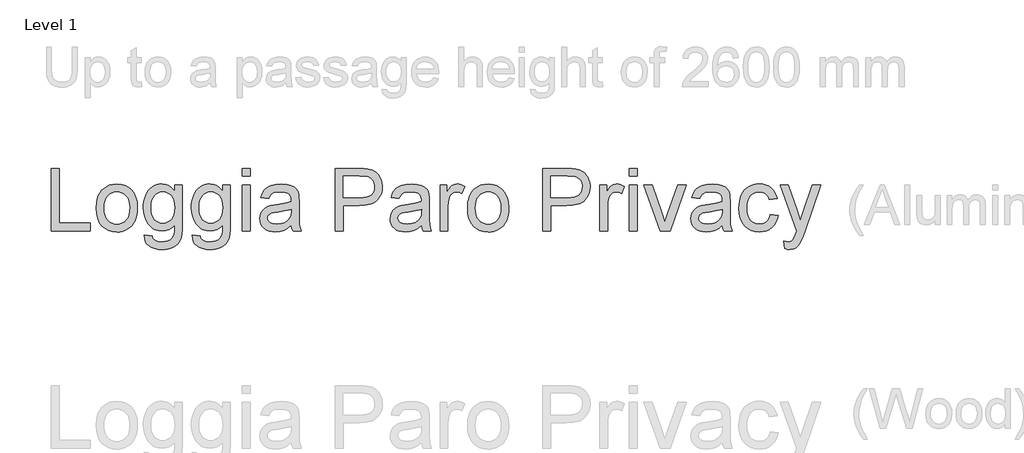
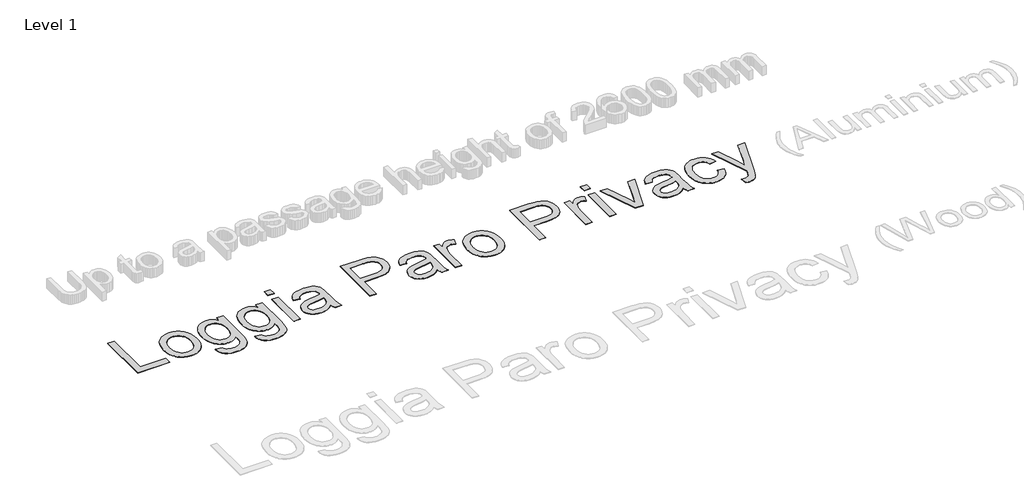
# One storey, part 11 of 47: 1 proxy.
"""IFC4 building model written with IfcOpenShell, lengths in millimetres."""

import ifcopenshell
import ifcopenshell.guid

model = None  # the IFC model being written
_history = None  # IfcOwnerHistory: only IFC2X3 demands one
_inside = {}  # id of a spatial element -> (the spatial element, [elements in it])
_under = {}  # id of a project, library or spatial element -> (it, [spatial elements below it])
_declared = {}  # id of a project -> (the project, [libraries it declares])
_typed = {}  # id of a type object -> (the type object, [elements of that type])
_made_of = {}  # id of a material, layer set ... -> (it, [elements and type objects made of it])


def new_model(schema):
    """Start an empty IFC model of exactly this schema.

    Asked for "IFC4X3", IfcOpenShell would pick the latest addendum, in which some entities
    have other attributes; the version numbers below select the first issue.
    IFC2X3 requires an IfcOwnerHistory on every rooted entity: one is made here for all.
    """
    global model, _history
    if schema == "IFC4X3":
        model = ifcopenshell.file(schema_version=(4, 3, 0, 0))
    else:
        model = ifcopenshell.file(schema=schema)
    _inside.clear()
    _under.clear()
    _declared.clear()
    _typed.clear()
    _made_of.clear()
    _history = None
    if model.schema == "IFC2X3":
        org = make("IfcOrganization", Name="unknown")
        user = make(
            "IfcPersonAndOrganization",
            ThePerson=make("IfcPerson", FamilyName="unknown"),
            TheOrganization=org,
        )
        app = make(
            "IfcApplication",
            ApplicationDeveloper=org,
            Version="unknown",
            ApplicationFullName="unknown",
            ApplicationIdentifier="unknown",
        )
        _history = make(
            "IfcOwnerHistory",
            OwningUser=user,
            OwningApplication=app,
            ChangeAction="ADDED",
            CreationDate=0,
        )
    return model


def make(cls, **values):
    """One entity of the class cls with the attributes given. An attribute that is None is left unset."""
    return model.create_entity(
        cls, **{name: value for name, value in values.items() if value is not None}
    )


def rooted(cls, **values):
    """An entity with a GlobalId (a new one), such as an element, a storey or a relation."""
    return make(cls, GlobalId=ifcopenshell.guid.new(), OwnerHistory=_history, **values)


def si_unit(unit_type, name, prefix=None):
    """IfcSIUnit, for example si_unit("LENGTHUNIT", "METRE", prefix="MILLI")."""
    return make("IfcSIUnit", UnitType=unit_type, Prefix=prefix, Name=name)


def assignment(units):
    """IfcUnitAssignment: the units of a project."""
    return None if units is None else make("IfcUnitAssignment", Units=units)


def point(xyz):
    """IfcCartesianPoint."""
    return None if xyz is None else make("IfcCartesianPoint", Coordinates=xyz)


def direction(xyz):
    """IfcDirection."""
    return None if xyz is None else make("IfcDirection", DirectionRatios=xyz)


def frame(location, z_axis=None, x_axis=None):
    """IfcAxis2Placement3D, a coordinate frame: its origin and axes. An axis left out is left unset."""
    return make(
        "IfcAxis2Placement3D",
        Location=point(location),
        Axis=direction(z_axis),
        RefDirection=direction(x_axis),
    )


def origin():
    """The frame at (0, 0, 0) with its axes left unset."""
    return frame((0.0, 0.0, 0.0))


def origin_with_axes():
    """The frame at (0, 0, 0) with the z axis (0, 0, 1) and the x axis (1, 0, 0) written out."""
    return frame((0.0, 0.0, 0.0), z_axis=(0.0, 0.0, 1.0), x_axis=(1.0, 0.0, 0.0))


def place(relative_to, where):
    """IfcLocalPlacement: puts the frame where relative to a parent placement (None: the world)."""
    return make(
        "IfcLocalPlacement", PlacementRelTo=relative_to, RelativePlacement=where
    )


def context(
    kind, dimensions, precision=None, world=None, true_north=None, identifier=None
):
    """IfcGeometricRepresentationContext, for example the 3D "Model" context."""
    return make(
        "IfcGeometricRepresentationContext",
        ContextIdentifier=identifier,
        ContextType=kind,
        CoordinateSpaceDimension=dimensions,
        Precision=precision,
        WorldCoordinateSystem=world,
        TrueNorth=true_north,
    )


def project(units=None, contexts=None):
    """IfcProject with its units and contexts."""
    return rooted(
        "IfcProject",
        Name="project",
        RepresentationContexts=contexts,
        UnitsInContext=assignment(units),
    )


def spatial(cls, under=None, at=None, **own):
    """A site, building, storey or space (cls), placed at a placement, below another one or the project."""
    s = rooted(cls, ObjectPlacement=at, **own)
    if under is not None:
        _under.setdefault(under.id(), (under, []))[1].append(s)
    return s


def polyline(points):
    """IfcPolyline through the points."""
    return make("IfcPolyline", Points=[point(p) for p in points])


def outline(outer, holes=None, kind="AREA"):
    """IfcArbitraryClosedProfileDef: a profile drawn as a closed curve; with holes, ...WithVoids."""
    if holes is None:
        return make("IfcArbitraryClosedProfileDef", ProfileType=kind, OuterCurve=outer)
    return make(
        "IfcArbitraryProfileDefWithVoids",
        ProfileType=kind,
        OuterCurve=outer,
        InnerCurves=holes,
    )


def extrude(swept, where, along, depth):
    """IfcExtrudedAreaSolid: the profile swept, set in the frame where, extruded along a direction by depth."""
    return make(
        "IfcExtrudedAreaSolid",
        SweptArea=swept,
        Position=where,
        ExtrudedDirection=direction(along),
        Depth=depth,
    )


def shape(context_of_items, identifier, shape_type, items):
    """IfcShapeRepresentation: the items that make up one representation, for example the "Body"."""
    return make(
        "IfcShapeRepresentation",
        ContextOfItems=context_of_items,
        RepresentationIdentifier=identifier,
        RepresentationType=shape_type,
        Items=items,
    )


def made_of(thing, what):
    """Note that an element or type object is made of a material, layer set ...; save() writes the relation."""
    if what is not None:
        _made_of.setdefault(what.id(), (what, []))[1].append(thing)
    return thing


def element(
    cls,
    number,
    at=None,
    inside=None,
    cuts=None,
    type_object=None,
    material=None,
    context=None,
    identifier="Body",
    shape_type=None,
    held_by="IfcProductDefinitionShape",
    body=None,
    shapes=None,
    **own,
):
    """One element of the class cls, such as IfcWall. Its Tag is "e" and its number.

    at: its placement. inside: the storey or other place that contains it. cuts: it is an
    opening in that element (IfcRelVoidsElement). A single representation is given by context,
    identifier, shape_type and body (its items); several are given by shapes. held_by: the class
    of the entity that holds the representations. save() writes the other relations.
    """
    e = rooted(cls, Tag="e%d" % number, ObjectPlacement=at, **own)
    if body is not None:
        shapes = [shape(context, identifier, shape_type, body)]
    if shapes is not None:
        e.Representation = make(held_by, Representations=shapes)
    if inside is not None:
        _inside.setdefault(inside.id(), (inside, []))[1].append(e)
    if cuts is not None:
        rooted(
            "IfcRelVoidsElement", RelatingBuildingElement=cuts, RelatedOpeningElement=e
        )
    if type_object is not None:
        _typed.setdefault(type_object.id(), (type_object, []))[1].append(e)
    return made_of(e, material)


def aggregate(whole, parts):
    """IfcRelAggregates: a whole, such as a stair, and the parts it consists of."""
    return rooted("IfcRelAggregates", RelatingObject=whole, RelatedObjects=parts)


def save(model, path):
    """Write the relations noted so far, then the file.

    IfcRelAggregates (storeys below a building ...), IfcRelContainedInSpatialStructure (elements
    in a storey), IfcRelDefinesByType, IfcRelAssociatesMaterial and IfcRelDeclares: one each for
    every whole, place, type object, material and project.
    """
    for whole, parts in _under.values():
        aggregate(whole, parts)
    for where, things in _inside.values():
        rooted(
            "IfcRelContainedInSpatialStructure",
            RelatedElements=things,
            RelatingStructure=where,
        )
    for kind, things in _typed.values():
        rooted("IfcRelDefinesByType", RelatedObjects=things, RelatingType=kind)
    for what, things in _made_of.values():
        rooted("IfcRelAssociatesMaterial", RelatedObjects=things, RelatingMaterial=what)
    for by, libraries in _declared.values():
        rooted("IfcRelDeclares", RelatingContext=by, RelatedDefinitions=libraries)
    model.write(path)


model = new_model("IFC4")

# Units and contexts
model_context = context("Model", 3, world=origin())
ifc_project = project(units=[si_unit("LENGTHUNIT", "METRE", prefix="MILLI")], contexts=[model_context])

# Site, building, storey
site = spatial("IfcSite", under=ifc_project)
building = spatial("IfcBuilding", under=site)
storey = spatial("IfcBuildingStorey", under=building, Name="Level 1", Elevation=0.0)

# Proxy
placement = place(None, origin())
element("IfcBuildingElementProxy", 1, Name="800mm Arial", ObjectType="800mm Arial", at=placement, inside=storey, context=model_context, shape_type="SweptSolid", body=[
    extrude(outline(polyline([(172933.6081343, -29903.3203083), (172933.6081343, -29103.93161), (173033.5317216, -29103.93161), (173033.5317216, -29803.3967211), (173433.2260708, -29803.3967211), (173433.2260708, -29903.3203083), (172933.6081343, -29903.3203083)])), origin_with_axes(), (0.0, 0.0, 1.0), 5.0),
    extrude(outline(polyline([(173508.1687612, -29609.7947707), (173513.5723439, -29533.7664846), (173520.3268222, -29499.6952492), (173529.7830919, -29468.2526189), (173541.9411529, -29439.4385938), (173556.8010052, -29413.2531737), (173574.3626488, -29389.6963588), (173594.6260838, -29368.768149), (173632.7073142, -29340.3353021), (173674.7406006, -29320.0261257), (173720.7259429, -29307.8406199), (173770.6633411, -29303.7787846), (173825.7908622, -29308.7249534), (173875.6367777, -29323.5634597), (173920.2010875, -29348.2943036), (173959.4837917, -29382.9174851), (173991.5454554, -29426.2620246), (174014.4466438, -29477.1569425), (174028.1873568, -29535.602239), (174032.7675945, -29601.5979139), (174030.7427757, -29655.0848439), (174024.6683194, -29702.5461083), (174014.5442254, -29743.9817072), (174000.3704939, -29779.3916405), (173982.3239916, -29809.9773821), (173960.581585, -29836.9404058), (173935.1432743, -29860.2807115), (173906.0090595, -29879.9982992), (173874.3133268, -29895.6662494), (173841.1904629, -29906.8576424), (173806.6404677, -29913.5724782), (173770.6633411, -29915.8107568), (173714.7307716, -29910.8828845), (173664.4213434, -29896.0992679), (173619.7350565, -29871.4599067), (173580.671911, -29836.9648012), (173548.951783, -29793.1994409), (173526.2945487, -29740.7493157), (173512.7002081, -29679.6144257), (173508.1687612, -29609.7947707)]), holes=[polyline([(173608.0923485, -29609.5996074), (173610.9832043, -29658.0671824), (173619.6557715, -29700.0333814), (173634.1100501, -29735.4982044), (173654.3460403, -29764.4616514), (173678.961006, -29786.9603155), (173706.5522114, -29803.0307899), (173737.1196564, -29812.6730746), (173770.6633411, -29815.8871695), (173804.036258, -29812.654778), (173834.481726, -29802.9576037), (173861.9997451, -29786.7956466), (173886.5903154, -29764.1689065), (173906.8263056, -29734.9188135), (173921.2805843, -29698.8867972), (173929.9531515, -29656.0728579), (173932.8440072, -29606.4769953), (173929.9348549, -29559.546331), (173921.2073981, -29518.6779253), (173906.6616366, -29483.8717783), (173886.2975706, -29455.12789), (173861.6155175, -29432.6292258), (173834.1157949, -29416.5587514), (173803.7984028, -29406.9164668), (173770.6633411, -29403.7023719), (173737.1196564, -29406.9042691), (173706.5522114, -29416.5099606), (173678.961006, -29432.5194465), (173654.3460403, -29454.9327267), (173634.1100501, -29483.8107898), (173619.6557715, -29519.2146243), (173610.9832043, -29561.1442302), (173608.0923485, -29609.5996074)])]), origin_with_axes(), (0.0, 0.0, 1.0), 5.0),
    extrude(outline(polyline([(174120.2007334, -29953.282102), (174220.1243207, -29965.7725504), (174224.3447261, -29982.6053813), (174231.1510447, -29996.9986714), (174240.5432764, -30008.9524209), (174252.5214213, -30018.4666296), (174271.9035722, -30028.2003971), (174294.5303122, -30035.1530881), (174349.5175597, -30040.7152409), (174380.7192853, -30039.1417371), (174408.1641183, -30034.4212259), (174431.8520585, -30026.5537071), (174451.7831061, -30015.5391808), (174468.3719829, -30001.6825896), (174482.0334108, -29985.288876), (174492.7673899, -29966.3580402), (174500.5739202, -29944.890082), (174505.9897005, -29901.9053747), (174507.4046342, -29828.3776179), (174474.1536943, -29861.165045), (174437.0482802, -29884.5846357), (174396.0883918, -29898.6363902), (174351.274029, -29903.3203083), (174296.4880436, -29897.8679349), (174248.252225, -29881.5108144), (174226.5906283, -29869.2429741), (174206.5665732, -29854.2489471), (174171.4310882, -29816.0823327), (174143.5532368, -29770.2921537), (174123.6404858, -29720.1595922), (174111.6928352, -29665.6846482), (174107.710285, -29606.8673218), (174109.4972486, -29565.718369), (174114.8581393, -29526.1917107), (174123.7929571, -29488.287347), (174136.3017021, -29452.0052778), (174152.1953097, -29418.5530759), (174171.2847158, -29389.1383139), (174193.5699201, -29363.7609917), (174219.0509228, -29342.4211094), (174247.3191007, -29325.5150923), (174277.9658308, -29313.4393658), (174310.9911131, -29306.1939299), (174346.3949476, -29303.7787846), (174393.1243498, -29309.2433558), (174435.535765, -29325.6370693), (174473.6291931, -29352.9599252), (174507.4046342, -29391.2119235), (174507.4046342, -29316.269233), (174607.3282214, -29316.269233), (174607.3282214, -29823.10821), (174605.620543, -29886.6155534), (174600.4975075, -29940.1329776), (174591.959115, -29983.6604826), (174580.0053655, -30017.1980685), (174564.3496131, -30044.246476), (174544.7052115, -30068.3064463), (174521.072161, -30089.3779791), (174493.4504613, -30107.4610746), (174462.1206598, -30121.9763418), (174427.3633036, -30132.3443898), (174389.1783927, -30138.5652186), (174347.5659271, -30140.6388282), (174298.610444, -30137.7174782), (174254.5950309, -30128.9534282), (174215.5196876, -30114.3466782), (174181.3844143, -30093.8972282), (174153.8115055, -30067.5806829), (174134.4232557, -30035.3726467), (174123.219665, -29997.2731198), (174120.2007334, -29953.282102)]), holes=[polyline([(174207.6338723, -29600.0366079), (174210.2990705, -29649.443406), (174218.2946652, -29691.6901522), (174231.6206563, -29726.7768463), (174250.2770438, -29754.7034886), (174272.9586735, -29776.0067778), (174298.3603911, -29791.2234129), (174326.4821966, -29800.353394), (174357.32409, -29803.3967211), (174387.8610407, -29800.3716906), (174415.8486715, -29791.2965992), (174441.2869822, -29776.1714468), (174464.1759729, -29754.9962335), (174483.0885122, -29727.3440396), (174496.5974688, -29692.7879455), (174504.7028428, -29651.3279512), (174507.4046342, -29602.9640567), (174504.6235578, -29556.6188821), (174496.2803285, -29516.3359662), (174482.3749465, -29482.115309), (174462.9074117, -29453.9569104), (174439.524414, -29431.9705498), (174413.8726435, -29416.2660065), (174385.9521001, -29406.8432805), (174355.7627839, -29403.7023719), (174326.0796724, -29406.7944897), (174298.7019268, -29416.0708433), (174273.6295472, -29431.5314325), (174250.8625336, -29453.1762574), (174231.9499943, -29480.9077364), (174218.4410376, -29514.6282878), (174210.3356636, -29554.3379116), (174207.6338723, -29600.0366079)])]), origin_with_axes(), (0.0, 0.0, 1.0), 5.0),
    extrude(outline(polyline([(174732.2327056, -29953.282102), (174832.1562929, -29965.7725504), (174836.3766983, -29982.6053813), (174843.1830168, -29996.9986714), (174852.5752486, -30008.9524209), (174864.5533934, -30018.4666296), (174883.9355443, -30028.2003971), (174906.5622844, -30035.1530881), (174961.5495319, -30040.7152409), (174992.7512575, -30039.1417371), (175020.1960904, -30034.4212259), (175043.8840307, -30026.5537071), (175063.8150782, -30015.5391808), (175080.403955, -30001.6825896), (175094.065383, -29985.288876), (175104.7993621, -29966.3580402), (175112.6058923, -29944.890082), (175118.0216727, -29901.9053747), (175119.4366063, -29828.3776179), (175086.1856665, -29861.165045), (175049.0802524, -29884.5846357), (175008.1203639, -29898.6363902), (174963.3060012, -29903.3203083), (174908.5200158, -29897.8679349), (174860.2841972, -29881.5108144), (174838.6226004, -29869.2429741), (174818.5985454, -29854.2489471), (174783.4630604, -29816.0823327), (174755.585209, -29770.2921537), (174735.672458, -29720.1595922), (174723.7248074, -29665.6846482), (174719.7422572, -29606.8673218), (174721.5292207, -29565.718369), (174726.8901114, -29526.1917107), (174735.8249293, -29488.287347), (174748.3336742, -29452.0052778), (174764.2272819, -29418.5530759), (174783.3166879, -29389.1383139), (174805.6018923, -29363.7609917), (174831.0828949, -29342.4211094), (174859.3510729, -29325.5150923), (174889.997803, -29313.4393658), (174923.0230853, -29306.1939299), (174958.4269198, -29303.7787846), (175005.156322, -29309.2433558), (175047.5677371, -29325.6370693), (175085.6611653, -29352.9599252), (175119.4366063, -29391.2119235), (175119.4366063, -29316.269233), (175219.3601936, -29316.269233), (175219.3601936, -29823.10821), (175217.6525151, -29886.6155534), (175212.5294796, -29940.1329776), (175203.9910872, -29983.6604826), (175192.0373377, -30017.1980685), (175176.3815852, -30044.246476), (175156.7371837, -30068.3064463), (175133.1041331, -30089.3779791), (175105.4824335, -30107.4610746), (175074.152632, -30121.9763418), (175039.3952758, -30132.3443898), (175001.2103649, -30138.5652186), (174959.5978993, -30140.6388282), (174910.6424162, -30137.7174782), (174866.627003, -30128.9534282), (174827.5516598, -30114.3466782), (174793.4163865, -30093.8972282), (174765.8434776, -30067.5806829), (174746.4552279, -30035.3726467), (174735.2516372, -29997.2731198), (174732.2327056, -29953.282102)]), holes=[polyline([(174819.6658444, -29600.0366079), (174822.3310427, -29649.443406), (174830.3266373, -29691.6901522), (174843.6526284, -29726.7768463), (174862.309016, -29754.7034886), (174884.9906457, -29776.0067778), (174910.3923633, -29791.2234129), (174938.5141688, -29800.353394), (174969.3560621, -29803.3967211), (174999.8930129, -29800.3716906), (175027.8806437, -29791.2965992), (175053.3189544, -29776.1714468), (175076.207945, -29754.9962335), (175095.1204843, -29727.3440396), (175108.629441, -29692.7879455), (175116.734815, -29651.3279512), (175119.4366063, -29602.9640567), (175116.6555299, -29556.6188821), (175108.3123007, -29516.3359662), (175094.4069187, -29482.115309), (175074.9393839, -29453.9569104), (175051.5563862, -29431.9705498), (175025.9046157, -29416.2660065), (174997.9840723, -29406.8432805), (174967.7947561, -29403.7023719), (174938.1116445, -29406.7944897), (174910.733899, -29416.0708433), (174885.6615194, -29431.5314325), (174862.8945057, -29453.1762574), (174843.9819664, -29480.9077364), (174830.4730098, -29514.6282878), (174822.3676358, -29554.3379116), (174819.6658444, -29600.0366079)])]), origin_with_axes(), (0.0, 0.0, 1.0), 5.0),
    extrude(outline(polyline([(175369.2455746, -29903.3203083), (175369.2455746, -29316.269233), (175469.1691618, -29316.269233), (175469.1691618, -29903.3203083), (175369.2455746, -29903.3203083)])), origin_with_axes(), (0.0, 0.0, 1.0), 5.0),
    extrude(outline(polyline([(175369.2455746, -29203.8551973), (175369.2455746, -29103.93161), (175469.1691618, -29103.93161), (175469.1691618, -29203.8551973), (175369.2455746, -29203.8551973)])), origin_with_axes(), (0.0, 0.0, 1.0), 5.0),
    extrude(outline(polyline([(175993.7679951, -29828.3776179), (175946.0261835, -29869.3131109), (175921.6246776, -29884.4748564), (175896.8694383, -29896.0992679), (175845.1755708, -29910.8828845), (175789.8223922, -29915.8107568), (175745.3312686, -29912.8467148), (175706.3169138, -29903.9545889), (175672.779328, -29889.1343791), (175644.718511, -29868.3860854), (175622.5613826, -29843.0270598), (175606.7348622, -29814.3746542), (175597.23895, -29782.4288687), (175594.073646, -29747.1897032), (175598.8551457, -29705.766302), (175613.1996451, -29668.1485843), (175635.3262793, -29635.946647), (175663.4541836, -29610.770587), (175696.5099602, -29591.7421695), (175733.4202111, -29577.9831599), (175819.8775337, -29562.9555891), (175922.0454984, -29547.1473654), (175993.1825054, -29528.606856), (175993.7679951, -29506.3582448), (175992.0481189, -29482.1336056), (175986.8884903, -29461.7634407), (175978.2891094, -29445.2477501), (175966.249976, -29432.5865338), (175945.4406938, -29419.949713), (175920.0938658, -29410.9234124), (175890.2094922, -29405.507632), (175855.7875728, -29403.7023719), (175796.2627796, -29408.5082671), (175773.2335154, -29414.5156361), (175754.693006, -29422.9259526), (175739.4580743, -29434.3978928), (175726.345543, -29449.5901325), (175715.3554121, -29468.5026719), (175706.4876817, -29491.1355108), (175606.5640944, -29478.6450624), (175623.9092288, -29423.9993505), (175635.7836932, -29401.0676679), (175649.7927557, -29381.0634341), (175666.5402026, -29363.584125), (175686.6298203, -29348.2272162), (175710.0616088, -29334.9927079), (175736.835568, -29323.8806), (175798.2388076, -29308.8042384), (175868.6683478, -29303.7787846), (175936.2192299, -29308.2187487), (175989.7671484, -29321.5386409), (176030.1415471, -29341.5672701), (176058.1718698, -29366.133445), (176076.7611699, -29396.5057268), (176088.812501, -29433.9526766), (176092.4718121, -29468.496573), (176093.6915824, -29521.3858155), (176093.6915824, -29645.7048099), (176094.9601436, -29753.9960218), (176098.7658271, -29819.3025265), (176106.2796125, -29862.2140475), (176118.6724793, -29903.3203083), (176018.748892, -29903.3203083), (176002.7455049, -29868.5812487), (175993.7679951, -29828.3776179)]), holes=[polyline([(175993.7679951, -29628.5304433), (175926.6318349, -29645.1681109), (175832.5631453, -29659.1710745), (175780.7229053, -29666.8312324), (175746.5937309, -29675.3696248), (175724.2231426, -29686.4451396), (175707.6586612, -29701.7166645), (175697.4125902, -29720.0132197), (175693.9972333, -29740.163826), (175695.857383, -29755.6915026), (175701.4378324, -29769.8774318), (175710.7385813, -29782.7216136), (175723.7596299, -29794.224048), (175740.3790009, -29803.7016636), (175760.4747175, -29810.4713891), (175811.0951871, -29815.8871695), (175864.7650826, -29809.9102947), (175889.2580713, -29802.4392013), (175912.1897539, -29791.9796706), (175950.6369155, -29765.5594447), (175977.3742816, -29734.113765), (175989.2304494, -29701.7166645), (175993.1825054, -29656.8291155), (175993.7679951, -29628.5304433)])]), origin_with_axes(), (0.0, 0.0, 1.0), 5.0),
    extrude(outline(polyline([(176555.8381737, -29903.3203083), (176555.8381737, -29103.93161), (176852.0959969, -29103.93161), (176921.0862081, -29105.8344518), (176971.5359099, -29111.542977), (177024.7910835, -29125.7654993), (177068.6296299, -29148.9167406), (177087.2372267, -29164.1028815), (177103.9297839, -29182.0457034), (177131.5697801, -29226.2013902), (177141.9866189, -29251.6397009), (177149.4272181, -29278.2855842), (177155.3796974, -29335.2000689), (177151.3605541, -29384.2714302), (177139.3031242, -29429.4151309), (177119.2074076, -29470.6311711), (177091.0734044, -29507.9195508), (177073.3791107, -29524.4779334), (177052.4493762, -29538.8285316), (177028.2842008, -29550.9713454), (177000.8835845, -29560.9063749), (176936.3760294, -29574.153081), (176858.9267109, -29578.5686496), (176655.761761, -29578.5686496), (176655.761761, -29903.3203083), (176555.8381737, -29903.3203083)]), holes=[polyline([(176655.761761, -29478.6450624), (176864.7816086, -29478.6450624), (176912.8405605, -29476.3518941), (176953.385727, -29469.4723893), (176986.4171082, -29458.006548), (177011.9347039, -29441.9543701), (177030.9753191, -29421.7427754), (177044.5757586, -29397.7986834), (177052.7360222, -29370.1220941), (177055.4561101, -29338.7130075), (177053.8521121, -29315.3909983), (177049.0401181, -29293.8254585), (177041.020128, -29274.016388), (177029.7921419, -29255.9637868), (177015.9538473, -29240.2531446), (177000.1029315, -29227.4699513), (176982.2393947, -29217.6142069), (176962.3632368, -29210.6859113), (176923.8184937, -29205.5628758), (176862.4396495, -29203.8551973), (176655.761761, -29203.8551973), (176655.761761, -29478.6450624)])]), origin_with_axes(), (0.0, 0.0, 1.0), 5.0),
    extrude(outline(polyline([(177654.9976339, -29828.3776179), (177607.2558223, -29869.3131109), (177582.8543164, -29884.4748564), (177558.0990771, -29896.0992679), (177506.4052095, -29910.8828845), (177451.0520309, -29915.8107568), (177406.5609073, -29912.8467148), (177367.5465526, -29903.9545889), (177334.0089667, -29889.1343791), (177305.9481498, -29868.3860854), (177283.7910213, -29843.0270598), (177267.964501, -29814.3746542), (177258.4685888, -29782.4288687), (177255.3032847, -29747.1897032), (177260.0847845, -29705.766302), (177274.4292838, -29668.1485843), (177296.555918, -29635.946647), (177324.6838224, -29610.770587), (177357.7395989, -29591.7421695), (177394.6498498, -29577.9831599), (177481.1071724, -29562.9555891), (177583.2751371, -29547.1473654), (177654.4121441, -29528.606856), (177654.9976339, -29506.3582448), (177653.2777577, -29482.1336056), (177648.1181291, -29461.7634407), (177639.5187481, -29445.2477501), (177627.4796147, -29432.5865338), (177606.6703325, -29419.949713), (177581.3235046, -29410.9234124), (177551.4391309, -29405.507632), (177517.0172116, -29403.7023719), (177457.4924184, -29408.5082671), (177434.4631541, -29414.5156361), (177415.9226448, -29422.9259526), (177400.687713, -29434.3978928), (177387.5751818, -29449.5901325), (177376.5850509, -29468.5026719), (177367.7173204, -29491.1355108), (177267.7937331, -29478.6450624), (177285.1388675, -29423.9993505), (177297.0133319, -29401.0676679), (177311.0223944, -29381.0634341), (177327.7698414, -29363.584125), (177347.8594591, -29348.2272162), (177371.2912475, -29334.9927079), (177398.0652068, -29323.8806), (177459.4684463, -29308.8042384), (177529.8979865, -29303.7787846), (177597.4488686, -29308.2187487), (177650.9967871, -29321.5386409), (177691.3711858, -29341.5672701), (177719.4015085, -29366.133445), (177737.9908087, -29396.5057268), (177750.0421398, -29433.9526766), (177753.7014508, -29468.496573), (177754.9212212, -29521.3858155), (177754.9212212, -29645.7048099), (177756.1897823, -29753.9960218), (177759.9954658, -29819.3025265), (177767.5092512, -29862.2140475), (177779.902118, -29903.3203083), (177679.9785307, -29903.3203083), (177663.9751437, -29868.5812487), (177654.9976339, -29828.3776179)]), holes=[polyline([(177654.9976339, -29628.5304433), (177587.8614737, -29645.1681109), (177493.7927841, -29659.1710745), (177441.9525441, -29666.8312324), (177407.8233696, -29675.3696248), (177385.4527813, -29686.4451396), (177368.8883, -29701.7166645), (177358.642229, -29720.0132197), (177355.226872, -29740.163826), (177357.0870218, -29755.6915026), (177362.6674712, -29769.8774318), (177371.9682201, -29782.7216136), (177384.9892686, -29794.224048), (177401.6086397, -29803.7016636), (177421.7043562, -29810.4713891), (177472.3248259, -29815.8871695), (177525.9947214, -29809.9102947), (177550.4877101, -29802.4392013), (177573.4193927, -29791.9796706), (177611.8665542, -29765.5594447), (177638.6039203, -29734.113765), (177650.4600882, -29701.7166645), (177654.4121441, -29656.8291155), (177654.9976339, -29628.5304433)])]), origin_with_axes(), (0.0, 0.0, 1.0), 5.0),
    extrude(outline(polyline([(177892.3161537, -29903.3203083), (177892.3161537, -29316.269233), (177979.7492926, -29316.269233), (177979.7492926, -29403.1168821), (178012.0488115, -29352.764762), (178027.2471501, -29335.3464413), (178041.8112081, -29323.099947), (178071.6711864, -29308.6090752), (178104.2634502, -29303.7787846), (178129.0491837, -29305.7060217), (178154.0300806, -29311.4877332), (178179.2061407, -29321.123919), (178204.577364, -29334.6145791), (178171.2044471, -29424.1945138), (178136.075061, -29408.8254074), (178100.9456748, -29403.7023719), (178071.110092, -29408.6302441), (178044.4459121, -29423.4138608), (178022.9047677, -29446.9310332), (178008.4382913, -29478.0595726), (177996.2893786, -29533.8762639), (177992.239741, -29594.7671999), (177992.239741, -29903.3203083), (177892.3161537, -29903.3203083)])), origin_with_axes(), (0.0, 0.0, 1.0), 5.0),
    extrude(outline(polyline([(178242.0487092, -29609.7947707), (178247.4522919, -29533.7664846), (178254.2067702, -29499.6952492), (178263.6630399, -29468.2526189), (178275.8211009, -29439.4385938), (178290.6809532, -29413.2531737), (178308.2425968, -29389.6963588), (178328.5060318, -29368.768149), (178366.5872622, -29340.3353021), (178408.6205486, -29320.0261257), (178454.6058909, -29307.8406199), (178504.5432891, -29303.7787846), (178559.6708102, -29308.7249534), (178609.5167257, -29323.5634597), (178654.0810355, -29348.2943036), (178693.3637397, -29382.9174851), (178725.4254034, -29426.2620246), (178748.3265918, -29477.1569425), (178762.0673048, -29535.602239), (178766.6475425, -29601.5979139), (178764.6227237, -29655.0848439), (178758.5482674, -29702.5461083), (178748.4241734, -29743.9817072), (178734.2504419, -29779.3916405), (178716.2039396, -29809.9773821), (178694.461533, -29836.9404058), (178669.0232223, -29860.2807115), (178639.8890075, -29879.9982992), (178608.1932748, -29895.6662494), (178575.0704109, -29906.8576424), (178540.5204157, -29913.5724782), (178504.5432891, -29915.8107568), (178448.6107196, -29910.8828845), (178398.3012914, -29896.0992679), (178353.6150045, -29871.4599067), (178314.551859, -29836.9648012), (178282.831731, -29793.1994409), (178260.1744967, -29740.7493157), (178246.5801561, -29679.6144257), (178242.0487092, -29609.7947707)]), holes=[polyline([(178341.9722965, -29609.5996074), (178344.8631523, -29658.0671824), (178353.5357195, -29700.0333814), (178367.9899981, -29735.4982044), (178388.2259883, -29764.4616514), (178412.840954, -29786.9603155), (178440.4321594, -29803.0307899), (178470.9996044, -29812.6730746), (178504.5432891, -29815.8871695), (178537.916206, -29812.654778), (178568.361674, -29802.9576037), (178595.8796931, -29786.7956466), (178620.4702634, -29764.1689065), (178640.7062536, -29734.9188135), (178655.1605323, -29698.8867972), (178663.8330995, -29656.0728579), (178666.7239552, -29606.4769953), (178663.8148029, -29559.546331), (178655.0873461, -29518.6779253), (178640.5415846, -29483.8717783), (178620.1775186, -29455.12789), (178595.4954655, -29432.6292258), (178567.9957429, -29416.5587514), (178537.6783508, -29406.9164668), (178504.5432891, -29403.7023719), (178470.9996044, -29406.9042691), (178440.4321594, -29416.5099606), (178412.840954, -29432.5194465), (178388.2259883, -29454.9327267), (178367.9899981, -29483.8107898), (178353.5357195, -29519.2146243), (178344.8631523, -29561.1442302), (178341.9722965, -29609.5996074)])]), origin_with_axes(), (0.0, 0.0, 1.0), 5.0),
    extrude(outline(polyline([(179203.8132369, -29903.3203083), (179203.8132369, -29103.93161), (179500.0710602, -29103.93161), (179569.0612713, -29105.8344518), (179619.5109731, -29111.542977), (179672.7661467, -29125.7654993), (179716.6046932, -29148.9167406), (179735.2122899, -29164.1028815), (179751.9048472, -29182.0457034), (179779.5448434, -29226.2013902), (179789.9616822, -29251.6397009), (179797.4022814, -29278.2855842), (179803.3547607, -29335.2000689), (179799.3356174, -29384.2714302), (179787.2781874, -29429.4151309), (179767.1824709, -29470.6311711), (179739.0484677, -29507.9195508), (179721.354174, -29524.4779334), (179700.4244395, -29538.8285316), (179676.2592641, -29550.9713454), (179648.8586478, -29560.9063749), (179584.3510927, -29574.153081), (179506.9017742, -29578.5686496), (179303.7368242, -29578.5686496), (179303.7368242, -29903.3203083), (179203.8132369, -29903.3203083)]), holes=[polyline([(179303.7368242, -29478.6450624), (179512.7566718, -29478.6450624), (179560.8156237, -29476.3518941), (179601.3607903, -29469.4723893), (179634.3921714, -29458.006548), (179659.9097672, -29441.9543701), (179678.9503824, -29421.7427754), (179692.5508218, -29397.7986834), (179700.7110855, -29370.1220941), (179703.4311734, -29338.7130075), (179701.8271754, -29315.3909983), (179697.0151813, -29293.8254585), (179688.9951913, -29274.016388), (179677.7672052, -29255.9637868), (179663.9289105, -29240.2531446), (179648.0779948, -29227.4699513), (179630.214458, -29217.6142069), (179610.3383001, -29210.6859113), (179571.7935569, -29205.5628758), (179510.4147128, -29203.8551973), (179303.7368242, -29203.8551973), (179303.7368242, -29478.6450624)])]), origin_with_axes(), (0.0, 0.0, 1.0), 5.0),
    extrude(outline(polyline([(179928.2592448, -29903.3203083), (179928.2592448, -29316.269233), (180015.6923837, -29316.269233), (180015.6923837, -29403.1168821), (180047.9919026, -29352.764762), (180063.1902412, -29335.3464413), (180077.7542992, -29323.099947), (180107.6142774, -29308.6090752), (180140.2065413, -29303.7787846), (180164.9922748, -29305.7060217), (180189.9731717, -29311.4877332), (180215.1492317, -29321.123919), (180240.5204551, -29334.6145791), (180207.1475382, -29424.1945138), (180172.0181521, -29408.8254074), (180136.8887659, -29403.7023719), (180107.0531831, -29408.6302441), (180080.3890032, -29423.4138608), (180058.8478587, -29446.9310332), (180044.3813824, -29478.0595726), (180032.2324697, -29533.8762639), (180028.1828321, -29594.7671999), (180028.1828321, -29903.3203083), (179928.2592448, -29903.3203083)])), origin_with_axes(), (0.0, 0.0, 1.0), 5.0),
    extrude(outline(polyline([(180302.9726971, -29203.8551973), (180302.9726971, -29103.93161), (180402.8962844, -29103.93161), (180402.8962844, -29203.8551973), (180302.9726971, -29203.8551973)])), origin_with_axes(), (0.0, 0.0, 1.0), 5.0),
    extrude(outline(polyline([(180302.9726971, -29903.3203083), (180302.9726971, -29316.269233), (180402.8962844, -29316.269233), (180402.8962844, -29903.3203083), (180302.9726971, -29903.3203083)])), origin_with_axes(), (0.0, 0.0, 1.0), 5.0),
    extrude(outline(polyline([(180696.8121486, -29903.3203083), (180490.3294233, -29316.269233), (180596.1079083, -29316.269233), (180721.2075557, -29667.9534211), (180758.8740642, -29786.2223545), (180795.7599196, -29674.5889718), (180921.64022, -29316.269233), (181027.418705, -29316.269233), (180823.473102, -29903.3203083), (180696.8121486, -29903.3203083)])), origin_with_axes(), (0.0, 0.0, 1.0), 5.0),
    extrude(outline(polyline([(181489.5652962, -29828.3776179), (181441.8234846, -29869.3131109), (181417.4219787, -29884.4748564), (181392.6667394, -29896.0992679), (181340.9728719, -29910.8828845), (181285.6196933, -29915.8107568), (181241.1285697, -29912.8467148), (181202.1142149, -29903.9545889), (181168.5766291, -29889.1343791), (181140.5158121, -29868.3860854), (181118.3586837, -29843.0270598), (181102.5321633, -29814.3746542), (181093.0362511, -29782.4288687), (181089.8709471, -29747.1897032), (181094.6524468, -29705.766302), (181108.9969462, -29668.1485843), (181131.1235804, -29635.946647), (181159.2514847, -29610.770587), (181192.3072613, -29591.7421695), (181229.2175122, -29577.9831599), (181315.6748348, -29562.9555891), (181417.8427995, -29547.1473654), (181488.9798065, -29528.606856), (181489.5652962, -29506.3582448), (181487.84542, -29482.1336056), (181482.6857914, -29461.7634407), (181474.0864105, -29445.2477501), (181462.0472771, -29432.5865338), (181441.2379949, -29419.949713), (181415.8911669, -29410.9234124), (181386.0067933, -29405.507632), (181351.5848739, -29403.7023719), (181292.0600807, -29408.5082671), (181269.0308165, -29414.5156361), (181250.4903071, -29422.9259526), (181235.2553754, -29434.3978928), (181222.1428441, -29449.5901325), (181211.1527132, -29468.5026719), (181202.2849828, -29491.1355108), (181102.3613955, -29478.6450624), (181119.7065299, -29423.9993505), (181131.5809943, -29401.0676679), (181145.5900568, -29381.0634341), (181162.3375037, -29363.584125), (181182.4271214, -29348.2272162), (181205.8589099, -29334.9927079), (181232.6328691, -29323.8806), (181294.0361087, -29308.8042384), (181364.4656489, -29303.7787846), (181432.016531, -29308.2187487), (181485.5644495, -29321.5386409), (181525.9388482, -29341.5672701), (181553.9691709, -29366.133445), (181572.558471, -29396.5057268), (181584.6098021, -29433.9526766), (181588.2691132, -29468.496573), (181589.4888835, -29521.3858155), (181589.4888835, -29645.7048099), (181590.7574447, -29753.9960218), (181594.5631282, -29819.3025265), (181602.0769136, -29862.2140475), (181614.4697804, -29903.3203083), (181514.5461931, -29903.3203083), (181498.542806, -29868.5812487), (181489.5652962, -29828.3776179)]), holes=[polyline([(181489.5652962, -29628.5304433), (181422.429136, -29645.1681109), (181328.3604464, -29659.1710745), (181276.5202064, -29666.8312324), (181242.391032, -29675.3696248), (181220.0204437, -29686.4451396), (181203.4559623, -29701.7166645), (181193.2098913, -29720.0132197), (181189.7945344, -29740.163826), (181191.6546841, -29755.6915026), (181197.2351335, -29769.8774318), (181206.5358825, -29782.7216136), (181219.556931, -29794.224048), (181236.176302, -29803.7016636), (181256.2720186, -29810.4713891), (181306.8924882, -29815.8871695), (181360.5623837, -29809.9102947), (181385.0553724, -29802.4392013), (181407.987055, -29791.9796706), (181446.4342166, -29765.5594447), (181473.1715827, -29734.113765), (181485.0277505, -29701.7166645), (181488.9798065, -29656.8291155), (181489.5652962, -29628.5304433)])]), origin_with_axes(), (0.0, 0.0, 1.0), 5.0),
    extrude(outline(polyline([(182101.5972684, -29690.9826853), (182201.5208557, -29703.4731338), (182190.6527019, -29750.6233567), (182173.6613008, -29792.3456017), (182150.5466527, -29828.6398685), (182121.3087573, -29859.5061573), (182087.1795828, -29884.1394195), (182049.3910973, -29901.7346069), (182007.9433007, -29912.2917193), (181962.8361931, -29915.8107568), (181906.7938442, -29910.9011811), (181856.5454045, -29896.1724541), (181812.090874, -29871.6245757), (181773.4302527, -29837.257546), (181742.1370443, -29793.7178433), (181719.7847526, -29741.6519458), (181706.3733776, -29681.0598535), (181701.9029192, -29611.9415665), (181703.8118598, -29565.9989162), (181709.5386816, -29523.0203078), (181719.0833847, -29483.0057414), (181732.4459689, -29445.9552169), (181749.7179171, -29412.6127943), (181770.990712, -29383.7225335), (181796.2643537, -29359.2844345), (181825.5388422, -29339.2984973), (181857.4907266, -29323.758623), (181890.7965561, -29312.6587128), (181925.4563306, -29305.9987666), (181961.4700503, -29303.7787846), (182005.8026038, -29306.8282105), (182045.9025541, -29315.9764881), (182081.7699013, -29331.2236175), (182113.4046454, -29352.5695987), (182140.2700874, -29379.5265235), (182161.8295284, -29411.6064838), (182178.0829684, -29448.8094795), (182189.0304073, -29491.1355108), (182089.10682, -29503.6259592), (182081.3063886, -29480.2856535), (182070.9810326, -29460.0313668), (182058.1307519, -29442.8630991), (182042.7555466, -29428.7808503), (182025.2457432, -29417.809016), (182005.9916682, -29409.9719915), (181984.9933215, -29405.2697768), (181962.2507033, -29403.7023719), (181928.2983955, -29406.7883909), (181897.6760608, -29416.0464479), (181870.3836992, -29431.4765428), (181846.4213106, -29453.0786758), (181826.9110838, -29481.3529525), (181812.9752076, -29516.799479), (181804.6136818, -29559.4182551), (181801.8265065, -29609.2092809), (181804.5526933, -29659.7504655), (181812.7312535, -29702.8632486), (181826.3621872, -29738.5476303), (181845.4454943, -29766.8036105), (181868.9321725, -29788.2776675), (181895.7732191, -29803.6162797), (181925.9686342, -29812.819447), (181959.5184177, -29815.8871695), (181986.5546276, -29813.97213), (182011.2610761, -29808.2270116), (182033.6377632, -29798.6518144), (182053.684689, -29785.2465382), (182070.840759, -29767.8648107), (182084.5448789, -29746.3602594), (182094.7970487, -29720.7328842), (182101.5972684, -29690.9826853)])), origin_with_axes(), (0.0, 0.0, 1.0), 5.0),
    extrude(outline(polyline([(182288.9539946, -30128.1483798), (182276.4635462, -30031.9328943), (182303.6888204, -30038.5196542), (182327.2059928, -30040.7152409), (182353.8945682, -30037.9585599), (182374.6306642, -30029.6885169), (182390.7804236, -30016.4906017), (182403.7099894, -29998.950304), (182431.0328453, -29925.3737563), (182438.8393755, -29901.1735125), (182226.5017525, -29316.269233), (182331.889911, -29316.269233), (182444.49911, -29642.1918712), (182483.7269245, -29772.5609265), (182522.954739, -29657.4146052), (182638.6865501, -29316.269233), (182743.2940556, -29316.269233), (182538.9581261, -29917.3720628), (182508.6102397, -29997.2914163), (182485.8737203, -30047.7411181), (182458.6972369, -30089.3596825), (182427.9102332, -30118.1950537), (182410.8212505, -30128.014205), (182392.1465664, -30135.0278845), (182350.0400938, -30140.6388282), (182321.1071411, -30137.5162161), (182288.9539946, -30128.1483798)])), origin_with_axes(), (0.0, 0.0, 1.0), 5.0),
])

save(model, "model.ifc")
